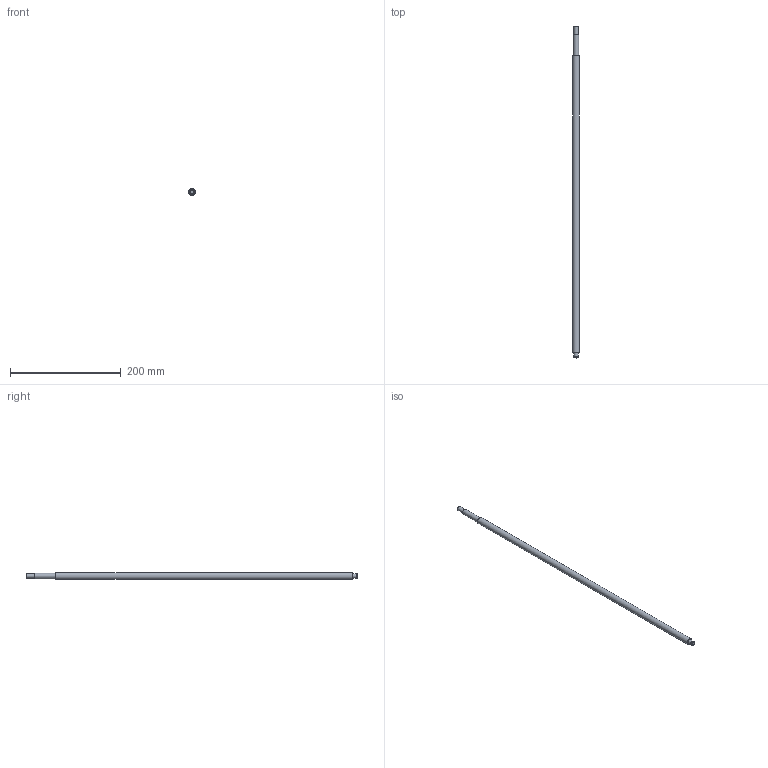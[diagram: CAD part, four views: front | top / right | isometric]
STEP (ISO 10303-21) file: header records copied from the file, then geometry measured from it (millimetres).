
FILE_DESCRIPTION(/* description */ (''),/* implementation_level */ '2;1');
FILE_NAME(/* name */ 'C:\Users\David\Desktop\stepFiles\Profilfuehrung\KUS1204x600.stp',/* time_stamp */ '2018-06-24T15:05:14+02:00',/* author */ ('David'),/* organization */ (''),/* preprocessor_version */ 'ST-DEVELOPER v17',/* originating_system */ 'Autodesk Inventor 2019',/* authorisation */ '');
FILE_SCHEMA (('AUTOMOTIVE_DESIGN { 1 0 10303 214 3 1 1 }'));
Length unit declared in the file: millimetre
Products named in the file (1): SFU1204xvariabel
Bounding box: 12 x 600 x 12 mm (x, y, z)
Volume: 64929.4 mm3; surface area: 22279.8 mm2
Topology: 1 solids, 1 shells, 15 faces, 34 edges, 26 vertices
Faces by surface type: plane 7, cylinder 6, cone 2
Full cylindrical faces by diameter (mm): 7.6 x1, 8 x3, 10 x1, 12 x1
Entity records: 493 total; most frequent: DIRECTION 92, CARTESIAN_POINT 76, ORIENTED_EDGE 68, AXIS2_PLACEMENT_3D 42, EDGE_CURVE 34, CIRCLE 26, VERTEX_POINT 26, EDGE_LOOP 20
